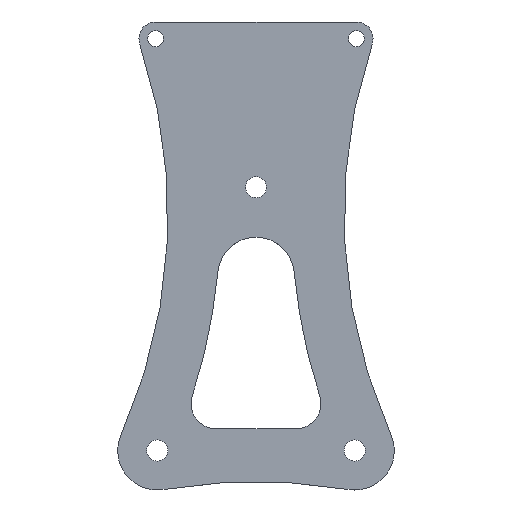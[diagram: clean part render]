
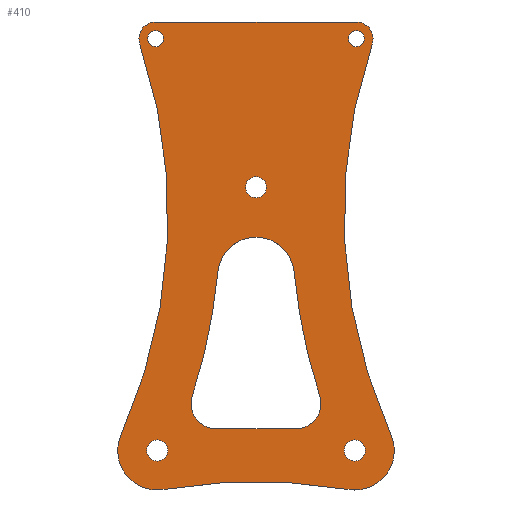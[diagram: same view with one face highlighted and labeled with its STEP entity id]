
A CAD part, top view. The second image highlights one B-rep face of the part: STEP entity #410.
In plain terms, the highlighted planar face has unit normal (0, 0, 1).
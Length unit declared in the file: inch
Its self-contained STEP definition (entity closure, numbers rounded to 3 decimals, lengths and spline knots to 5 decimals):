
#15=FACE_BOUND('',#72,.T.);
#16=FACE_BOUND('',#73,.T.);
#17=FACE_BOUND('',#74,.T.);
#18=FACE_BOUND('',#75,.T.);
#19=FACE_BOUND('',#76,.T.);
#20=FACE_BOUND('',#77,.T.);
#29=PLANE('',#479);
#50=FACE_OUTER_BOUND('',#71,.T.);
#71=EDGE_LOOP('',(#336,#337,#338,#339,#340,#341,#342,#343));
#72=EDGE_LOOP('',(#344));
#73=EDGE_LOOP('',(#345,#346,#347,#348,#349,#350));
#74=EDGE_LOOP('',(#351));
#75=EDGE_LOOP('',(#352));
#76=EDGE_LOOP('',(#353));
#77=EDGE_LOOP('',(#354));
#93=LINE('',#660,#116);
#106=LINE('',#726,#129);
#116=VECTOR('',#529,0.3937);
#129=VECTOR('',#604,0.3937);
#131=CIRCLE('',#427,0.15748);
#133=CIRCLE('',#430,0.15748);
#135=CIRCLE('',#433,0.11811);
#137=CIRCLE('',#436,0.11811);
#140=CIRCLE('',#440,8.7874);
#142=CIRCLE('',#443,0.37275);
#144=CIRCLE('',#447,0.37275);
#146=CIRCLE('',#450,8.7874);
#148=CIRCLE('',#453,0.5711);
#149=CIRCLE('',#455,0.15748);
#152=CIRCLE('',#459,8.);
#154=CIRCLE('',#462,0.59055);
#156=CIRCLE('',#465,8.);
#158=CIRCLE('',#468,0.59055);
#160=CIRCLE('',#471,8.);
#162=CIRCLE('',#474,0.25);
#164=CIRCLE('',#478,0.25);
#165=VERTEX_POINT('',#618);
#167=VERTEX_POINT('',#624);
#169=VERTEX_POINT('',#630);
#171=VERTEX_POINT('',#636);
#175=VERTEX_POINT('',#645);
#176=VERTEX_POINT('',#647);
#178=VERTEX_POINT('',#653);
#180=VERTEX_POINT('',#659);
#182=VERTEX_POINT('',#665);
#184=VERTEX_POINT('',#671);
#185=VERTEX_POINT('',#678);
#189=VERTEX_POINT('',#687);
#190=VERTEX_POINT('',#689);
#192=VERTEX_POINT('',#695);
#194=VERTEX_POINT('',#701);
#196=VERTEX_POINT('',#707);
#198=VERTEX_POINT('',#713);
#200=VERTEX_POINT('',#719);
#202=VERTEX_POINT('',#725);
#203=EDGE_CURVE('',#165,#165,#131,.T.);
#206=EDGE_CURVE('',#167,#167,#133,.T.);
#209=EDGE_CURVE('',#169,#169,#135,.T.);
#212=EDGE_CURVE('',#171,#171,#137,.T.);
#217=EDGE_CURVE('',#176,#175,#140,.T.);
#220=EDGE_CURVE('',#178,#176,#142,.T.);
#223=EDGE_CURVE('',#180,#178,#93,.T.);
#226=EDGE_CURVE('',#182,#180,#144,.T.);
#229=EDGE_CURVE('',#184,#182,#146,.T.);
#232=EDGE_CURVE('',#175,#184,#148,.T.);
#233=EDGE_CURVE('',#185,#185,#149,.T.);
#238=EDGE_CURVE('',#190,#189,#152,.T.);
#241=EDGE_CURVE('',#192,#190,#154,.T.);
#244=EDGE_CURVE('',#194,#192,#156,.T.);
#247=EDGE_CURVE('',#196,#194,#158,.T.);
#250=EDGE_CURVE('',#198,#196,#160,.T.);
#253=EDGE_CURVE('',#200,#198,#162,.T.);
#256=EDGE_CURVE('',#202,#200,#106,.T.);
#259=EDGE_CURVE('',#189,#202,#164,.T.);
#336=ORIENTED_EDGE('',*,*,#259,.T.);
#337=ORIENTED_EDGE('',*,*,#256,.T.);
#338=ORIENTED_EDGE('',*,*,#253,.T.);
#339=ORIENTED_EDGE('',*,*,#250,.T.);
#340=ORIENTED_EDGE('',*,*,#247,.T.);
#341=ORIENTED_EDGE('',*,*,#244,.T.);
#342=ORIENTED_EDGE('',*,*,#241,.T.);
#343=ORIENTED_EDGE('',*,*,#238,.T.);
#344=ORIENTED_EDGE('',*,*,#233,.T.);
#345=ORIENTED_EDGE('',*,*,#232,.T.);
#346=ORIENTED_EDGE('',*,*,#229,.T.);
#347=ORIENTED_EDGE('',*,*,#226,.T.);
#348=ORIENTED_EDGE('',*,*,#223,.T.);
#349=ORIENTED_EDGE('',*,*,#220,.T.);
#350=ORIENTED_EDGE('',*,*,#217,.T.);
#351=ORIENTED_EDGE('',*,*,#212,.T.);
#352=ORIENTED_EDGE('',*,*,#209,.T.);
#353=ORIENTED_EDGE('',*,*,#206,.T.);
#354=ORIENTED_EDGE('',*,*,#203,.T.);
#410=ADVANCED_FACE('',(#50,#15,#16,#17,#18,#19,#20),#29,.T.);
#427=AXIS2_PLACEMENT_3D('',#619,#485,#486);
#430=AXIS2_PLACEMENT_3D('',#625,#492,#493);
#433=AXIS2_PLACEMENT_3D('',#631,#499,#500);
#436=AXIS2_PLACEMENT_3D('',#637,#506,#507);
#440=AXIS2_PLACEMENT_3D('',#648,#516,#517);
#443=AXIS2_PLACEMENT_3D('',#654,#523,#524);
#447=AXIS2_PLACEMENT_3D('',#666,#535,#536);
#450=AXIS2_PLACEMENT_3D('',#672,#542,#543);
#453=AXIS2_PLACEMENT_3D('',#676,#549,#550);
#455=AXIS2_PLACEMENT_3D('',#679,#553,#554);
#459=AXIS2_PLACEMENT_3D('',#690,#563,#564);
#462=AXIS2_PLACEMENT_3D('',#696,#570,#571);
#465=AXIS2_PLACEMENT_3D('',#702,#577,#578);
#468=AXIS2_PLACEMENT_3D('',#708,#584,#585);
#471=AXIS2_PLACEMENT_3D('',#714,#591,#592);
#474=AXIS2_PLACEMENT_3D('',#720,#598,#599);
#478=AXIS2_PLACEMENT_3D('',#730,#610,#611);
#479=AXIS2_PLACEMENT_3D('',#731,#612,#613);
#485=DIRECTION('center_axis',(0.,0.,-1.));
#486=DIRECTION('ref_axis',(1.,0.,0.));
#492=DIRECTION('center_axis',(0.,0.,-1.));
#493=DIRECTION('ref_axis',(1.,0.,0.));
#499=DIRECTION('center_axis',(0.,0.,-1.));
#500=DIRECTION('ref_axis',(1.,0.,0.));
#506=DIRECTION('center_axis',(0.,0.,-1.));
#507=DIRECTION('ref_axis',(1.,0.,0.));
#516=DIRECTION('center_axis',(0.,0.,1.));
#517=DIRECTION('ref_axis',(0.952,-0.307,0.));
#523=DIRECTION('center_axis',(0.,0.,-1.));
#524=DIRECTION('ref_axis',(-0.952,0.307,0.));
#529=DIRECTION('',(-1.,0.,0.));
#535=DIRECTION('center_axis',(0.,0.,-1.));
#536=DIRECTION('ref_axis',(0.,-1.,0.));
#542=DIRECTION('center_axis',(0.,0.,1.));
#543=DIRECTION('ref_axis',(-0.995,-0.096,0.));
#549=DIRECTION('center_axis',(0.,0.,-1.));
#550=DIRECTION('ref_axis',(0.995,0.096,0.));
#553=DIRECTION('center_axis',(0.,0.,-1.));
#554=DIRECTION('ref_axis',(1.,0.,0.));
#563=DIRECTION('center_axis',(0.,0.,-1.));
#564=DIRECTION('ref_axis',(-0.947,0.32,0.));
#570=DIRECTION('center_axis',(0.,0.,1.));
#571=DIRECTION('ref_axis',(-0.172,-0.985,0.));
#577=DIRECTION('center_axis',(0.,0.,-1.));
#578=DIRECTION('ref_axis',(0.172,0.985,0.));
#584=DIRECTION('center_axis',(0.,0.,1.));
#585=DIRECTION('ref_axis',(-0.913,0.409,0.));
#591=DIRECTION('center_axis',(0.,0.,-1.));
#592=DIRECTION('ref_axis',(0.913,-0.409,0.));
#598=DIRECTION('center_axis',(0.,0.,1.));
#599=DIRECTION('ref_axis',(0.,1.,0.));
#604=DIRECTION('',(-1.,0.,0.));
#610=DIRECTION('center_axis',(0.,0.,1.));
#611=DIRECTION('ref_axis',(0.947,-0.32,0.));
#612=DIRECTION('center_axis',(0.,0.,1.));
#613=DIRECTION('ref_axis',(1.,0.,0.));
#618=CARTESIAN_POINT('',(-0.15748,0.,0.354));
#619=CARTESIAN_POINT('Origin',(0.,0.,
0.354));
#624=CARTESIAN_POINT('',(-1.63386,-3.93701,0.354));
#625=CARTESIAN_POINT('Origin',(-1.47638,-3.93701,0.354));
#630=CARTESIAN_POINT('',(-1.61811,2.2185,0.354));
#631=CARTESIAN_POINT('Origin',(-1.5,2.2185,0.354));
#636=CARTESIAN_POINT('',(1.38189,2.2185,0.354));
#637=CARTESIAN_POINT('Origin',(1.5,2.2185,0.354));
#645=CARTESIAN_POINT('',(-0.56848,-1.26447,0.354));
#647=CARTESIAN_POINT('',(-0.95372,-3.12499,0.354));
#648=CARTESIAN_POINT('Origin',(-9.31554,-0.42344,0.354));
#653=CARTESIAN_POINT('',(-0.59902,-3.61234,0.354));
#654=CARTESIAN_POINT('Origin',(-0.59902,-3.23959,0.354));
#659=CARTESIAN_POINT('',(0.59902,-3.61234,0.354));
#660=CARTESIAN_POINT('',(-0.59902,-3.61234,0.354));
#665=CARTESIAN_POINT('',(0.95372,-3.12499,0.354));
#666=CARTESIAN_POINT('Origin',(0.59902,-3.23959,0.354));
#671=CARTESIAN_POINT('',(0.56848,-1.26447,0.354));
#672=CARTESIAN_POINT('Origin',(9.31554,-0.42344,0.354));
#676=CARTESIAN_POINT('Origin',(0.,-1.31913,0.354));
#678=CARTESIAN_POINT('',(1.3189,-3.93701,0.354));
#679=CARTESIAN_POINT('Origin',(1.47638,-3.93701,0.354));
#687=CARTESIAN_POINT('',(1.73683,2.13844,0.354));
#689=CARTESIAN_POINT('',(2.01528,-3.69547,0.354));
#690=CARTESIAN_POINT('Origin',(9.31554,-0.42344,0.354));
#695=CARTESIAN_POINT('',(1.37489,-4.51877,0.354));
#696=CARTESIAN_POINT('Origin',(1.47638,-3.93701,0.354));
#701=CARTESIAN_POINT('',(-1.37489,-4.51877,0.354));
#702=CARTESIAN_POINT('Origin',(0.,-12.39974,
0.354));
#707=CARTESIAN_POINT('',(-2.01528,-3.69547,0.354));
#708=CARTESIAN_POINT('Origin',(-1.47638,-3.93701,0.354));
#713=CARTESIAN_POINT('',(-1.73683,2.13844,0.354));
#714=CARTESIAN_POINT('Origin',(-9.31554,-0.42344,0.354));
#719=CARTESIAN_POINT('',(-1.5,2.4685,0.354));
#720=CARTESIAN_POINT('Origin',(-1.5,2.2185,0.354));
#725=CARTESIAN_POINT('',(1.5,2.4685,0.354));
#726=CARTESIAN_POINT('',(1.5,2.4685,0.354));
#730=CARTESIAN_POINT('Origin',(1.5,2.2185,0.354));
#731=CARTESIAN_POINT('Origin',(0.,-1.02953,0.354));
